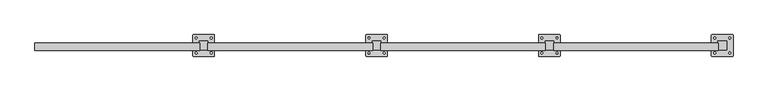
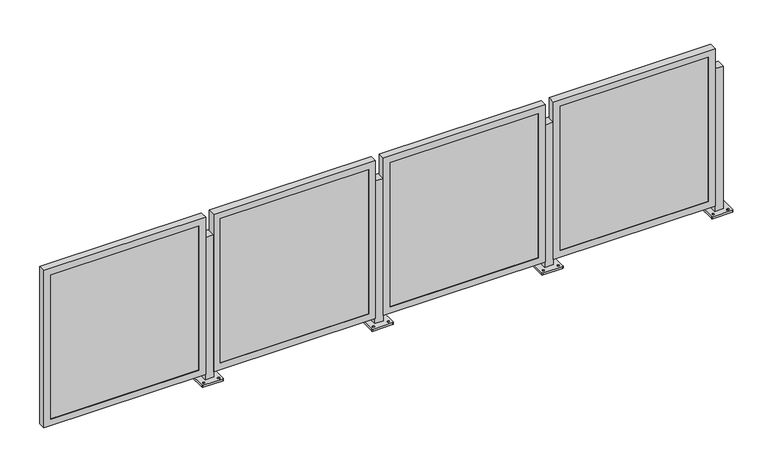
"""IFC4 building model written with IfcOpenShell, lengths in millimetres: railing geometry."""

from ifc_helpers import new_model, si_unit, frame, origin, place, context, project, spatial, polyline, circle_curve, outline, extrude, faceted_brep, source, transform, mapped, element, save
from ifc_brep_helpers import plane_surface, cylinder_surface, revolved_surface, advanced_brep


def railing_e510e1b7(model_context):
    return source(origin(), model_context, "Body", "SolidModel", [
        advanced_brep(
        [(-7228.7876539, 7781.5792637, 914.4), (-7228.7876539, 7730.7792637, 914.4), (-7177.9876539, 7730.7792637, 914.4), (-7177.9876539, 7781.5792637, 914.4), (-7266.887654, 7695.8543047, 0.0), (-7266.887654, 7816.5042227, 0.0), (-7263.7126259, 7819.6792508, 0.0), (-7143.0626819, 7819.6792508, 0.0), (-7139.8876537, 7816.5042227, 0.0), (-7139.8876537, 7695.8543047, 0.0), (-7143.0626819, 7692.6792766, 0.0), (-7263.7126259, 7692.6792766, 0.0), (-7247.8376414, 7706.173009, 0.0), (-7247.8376414, 7717.2855215, 0.0), (-7247.8376523, 7795.0730134, 0.0), (-7247.8376523, 7806.185495, 0.0), (-7158.9376404, 7706.1730106, 0.0), (-7158.9376404, 7717.2855212, 0.0), (-7158.9376514, 7795.073015, 0.0), (-7158.9376514, 7806.1854948, 0.0), (-7228.7876539, 7781.5792637, 12.7), (-7228.7876539, 7730.7792637, 12.7), (-7177.9876539, 7730.7792637, 12.7), (-7177.9876539, 7781.5792637, 12.7), (-7266.887654, 7695.8543047, 12.7), (-7263.7126259, 7692.6792766, 12.7), (-7143.0626819, 7692.6792766, 12.7), (-7139.8876537, 7695.8543047, 12.7), (-7139.8876537, 7816.5042227, 12.7), (-7143.0626819, 7819.6792508, 12.7), (-7263.7126259, 7819.6792508, 12.7), (-7266.887654, 7816.5042227, 12.7), (-7247.8376414, 7706.173009, 12.7), (-7247.8376414, 7717.2855215, 12.7), (-7247.8376523, 7795.0730134, 12.7), (-7247.8376523, 7806.185495, 12.7), (-7158.9376404, 7706.1730106, 12.7), (-7158.9376404, 7717.2855212, 12.7), (-7158.9376514, 7795.073015, 12.7), (-7158.9376514, 7806.1854948, 12.7)],
        [
            (0, 1),
            (1, 2),
            (2, 3),
            (3, 0),
            (4, 5),
            (5, 6, circle_curve(frame((-7263.7126259, 7816.5042227, 0.0), z_axis=(0.0, 0.0, -1.0), x_axis=(0.0, 1.0, 0.0)), 3.1750282)),
            (6, 7),
            (7, 8, circle_curve(frame((-7143.0626819, 7816.5042227, 0.0), z_axis=(0.0, 0.0, -1.0), x_axis=(0.0, 1.0, 0.0)), 3.1750282)),
            (8, 9),
            (9, 10, circle_curve(frame((-7143.0626819, 7695.8543047, 0.0), z_axis=(0.0, 0.0, -1.0), x_axis=(0.0, 1.0, 0.0)), 3.1750282)),
            (10, 11),
            (11, 4, circle_curve(frame((-7263.7126259, 7695.8543047, 0.0), z_axis=(0.0, 0.0, -1.0), x_axis=(0.0, 1.0, 0.0)), 3.1750282)),
            (12, 13, circle_curve(frame((-7247.8376414, 7711.7292653, 0.0), z_axis=(0.0, 0.0, 1.0), x_axis=(0.0, 1.0, 0.0)), 5.5562562)),
            (13, 12, circle_curve(frame((-7247.8376414, 7711.7292653, 0.0), z_axis=(0.0, 0.0, 1.0), x_axis=(0.0, 1.0, 0.0)), 5.5562562)),
            (14, 15, circle_curve(frame((-7247.8376523, 7800.6292542, 0.0), z_axis=(0.0, 0.0, 1.0), x_axis=(0.0, 1.0, 0.0)), 5.5562408)),
            (15, 14, circle_curve(frame((-7247.8376523, 7800.6292542, 0.0), z_axis=(0.0, 0.0, 1.0), x_axis=(0.0, 1.0, 0.0)), 5.5562408)),
            (16, 17, circle_curve(frame((-7158.9376404, 7711.7292659, 0.0), z_axis=(0.0, 0.0, 1.0), x_axis=(0.0, 1.0, 0.0)), 5.5562553)),
            (17, 16, circle_curve(frame((-7158.9376404, 7711.7292659, 0.0), z_axis=(0.0, 0.0, 1.0), x_axis=(0.0, 1.0, 0.0)), 5.5562553)),
            (18, 19, circle_curve(frame((-7158.9376514, 7800.6292549, 0.0), z_axis=(0.0, 0.0, 1.0), x_axis=(0.0, 1.0, 0.0)), 5.5562399)),
            (19, 18, circle_curve(frame((-7158.9376514, 7800.6292549, 0.0), z_axis=(0.0, 0.0, 1.0), x_axis=(0.0, 1.0, 0.0)), 5.5562399)),
            (0, 20),
            (20, 21),
            (21, 1),
            (21, 22),
            (22, 2),
            (22, 23),
            (23, 3),
            (23, 20),
            (24, 25, circle_curve(frame((-7263.7126259, 7695.8543047, 12.7), z_axis=(0.0, 0.0, 1.0), x_axis=(0.0, 1.0, 0.0)), 3.1750282)),
            (25, 26),
            (26, 27, circle_curve(frame((-7143.0626819, 7695.8543047, 12.7), z_axis=(0.0, 0.0, 1.0), x_axis=(0.0, 1.0, 0.0)), 3.1750282)),
            (27, 28),
            (28, 29, circle_curve(frame((-7143.0626819, 7816.5042227, 12.7), z_axis=(0.0, 0.0, 1.0), x_axis=(0.0, 1.0, 0.0)), 3.1750282)),
            (29, 30),
            (30, 31, circle_curve(frame((-7263.7126259, 7816.5042227, 12.7), z_axis=(0.0, 0.0, 1.0), x_axis=(0.0, 1.0, 0.0)), 3.1750282)),
            (31, 24),
            (32, 33, circle_curve(frame((-7247.8376414, 7711.7292653, 12.7), z_axis=(0.0, 0.0, -1.0), x_axis=(0.0, 1.0, 0.0)), 5.5562562)),
            (33, 32, circle_curve(frame((-7247.8376414, 7711.7292653, 12.7), z_axis=(0.0, 0.0, -1.0), x_axis=(0.0, 1.0, 0.0)), 5.5562562)),
            (34, 35, circle_curve(frame((-7247.8376523, 7800.6292542, 12.7), z_axis=(0.0, 0.0, -1.0), x_axis=(0.0, 1.0, 0.0)), 5.5562408)),
            (35, 34, circle_curve(frame((-7247.8376523, 7800.6292542, 12.7), z_axis=(0.0, 0.0, -1.0), x_axis=(0.0, 1.0, 0.0)), 5.5562408)),
            (36, 37, circle_curve(frame((-7158.9376404, 7711.7292659, 12.7), z_axis=(0.0, 0.0, -1.0), x_axis=(0.0, 1.0, 0.0)), 5.5562553)),
            (37, 36, circle_curve(frame((-7158.9376404, 7711.7292659, 12.7), z_axis=(0.0, 0.0, -1.0), x_axis=(0.0, 1.0, 0.0)), 5.5562553)),
            (38, 39, circle_curve(frame((-7158.9376514, 7800.6292549, 12.7), z_axis=(0.0, 0.0, -1.0), x_axis=(0.0, 1.0, 0.0)), 5.5562399)),
            (39, 38, circle_curve(frame((-7158.9376514, 7800.6292549, 12.7), z_axis=(0.0, 0.0, -1.0), x_axis=(0.0, 1.0, 0.0)), 5.5562399)),
            (24, 4),
            (11, 25),
            (10, 26),
            (9, 27),
            (8, 28),
            (7, 29),
            (6, 30),
            (5, 31),
            (32, 12),
            (13, 33),
            (34, 14),
            (15, 35),
            (36, 16),
            (17, 37),
            (38, 18),
            (19, 39),
        ],
        [
            plane_surface(frame((-7228.7876539, 7730.7792637, 914.4), z_axis=(0.0, 0.0, 1.0), x_axis=(0.0, -1.0, 0.0))),
            plane_surface(frame((-7228.7876539, 7730.7792637, 0.0), z_axis=(0.0, 0.0, -1.0), x_axis=(0.0, 1.0, 0.0))),
            plane_surface(frame((-7228.7876539, 7781.5792637, 914.4), z_axis=(-1.0, 0.0, 0.0), x_axis=(0.0, 0.0, -1.0))),
            plane_surface(frame((-7228.7876539, 7730.7792637, 914.4), z_axis=(0.0, -1.0, 0.0), x_axis=(0.0, 0.0, -1.0))),
            plane_surface(frame((-7177.9876539, 7730.7792637, 914.4), z_axis=(1.0, 0.0, 0.0), x_axis=(0.0, 0.0, -1.0))),
            plane_surface(frame((-7177.9876539, 7781.5792637, 914.4), z_axis=(0.0, 1.0, 0.0), x_axis=(0.0, 0.0, -1.0))),
            plane_surface(frame((-7263.7126259, 7699.0293329, 12.7), z_axis=(0.0, 0.0, 1.0), x_axis=(-1.0, 0.0, 0.0))),
            cylinder_surface(frame((-7263.7126259, 7695.8543047, 0.0), z_axis=(0.0, 0.0, 1.0), x_axis=(0.0, 1.0, 0.0)), 3.1750282),
            plane_surface(frame((-7263.7126259, 7692.6792766, 12.7), z_axis=(1.1945386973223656e-12, -1.0, 0.0), x_axis=(0.0, 0.0, -1.0))),
            cylinder_surface(frame((-7143.0626819, 7695.8543047, 0.0), z_axis=(0.0, 0.0, 1.0), x_axis=(0.0, 1.0, 0.0)), 3.1750282),
            plane_surface(frame((-7139.8876537, 7695.8543047, 12.7), z_axis=(1.0, 0.0, 0.0), x_axis=(0.0, 0.0, -1.0))),
            cylinder_surface(frame((-7143.0626819, 7816.5042227, 0.0), z_axis=(0.0, 0.0, 1.0), x_axis=(0.0, 1.0, 0.0)), 3.1750282),
            plane_surface(frame((-7143.0626819, 7819.6792508, 12.7), z_axis=(-1.1946088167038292e-12, 1.0, 0.0), x_axis=(0.0, 0.0, -1.0))),
            cylinder_surface(frame((-7263.7126259, 7816.5042227, 0.0), z_axis=(0.0, 0.0, 1.0), x_axis=(0.0, 1.0, 0.0)), 3.1750282),
            plane_surface(frame((-7266.887654, 7816.5042227, 12.7), z_axis=(-1.0, 0.0, 0.0), x_axis=(0.0, 0.0, -1.0))),
            revolved_surface(polyline([(-7247.8376414, 7717.2855215, 0.0), (-7247.8376414, 7717.2855215, 12.7)]), (-7247.8376414, 7711.7292653, 0.0), (0.0, 0.0, -1.0)),
            revolved_surface(polyline([(-7247.8376523, 7806.185495, 0.0), (-7247.8376523, 7806.185495, 12.7)]), (-7247.8376523, 7800.6292542, 0.0), (0.0, 0.0, -1.0)),
            revolved_surface(polyline([(-7158.9376404, 7717.2855212, 0.0), (-7158.9376404, 7717.2855212, 12.7)]), (-7158.9376404, 7711.7292659, 0.0), (0.0, 0.0, -1.0)),
            revolved_surface(polyline([(-7158.9376514, 7806.1854948, 0.0), (-7158.9376514, 7806.1854948, 12.7)]), (-7158.9376514, 7800.6292549, 0.0), (0.0, 0.0, -1.0)),
        ],
        [
            (0, [[1, 2, 3, 4]]),
            (1, [[5, 6, 7, 8, 9, 10, 11, 12], [13, 14], [15, 16], [17, 18], [19, 20]]),
            (2, [[-1, 21, 22, 23]]),
            (3, [[-2, -23, 24, 25]]),
            (4, [[-3, -25, 26, 27]]),
            (5, [[-4, -27, 28, -21]]),
            (6, [[29, 30, 31, 32, 33, 34, 35, 36], [-22, -28, -26, -24], [37, 38], [39, 40], [41, 42], [43, 44]]),
            (7, [[-29, 45, -12, 46]]),
            (8, [[-30, -46, -11, 47]]),
            (9, [[-31, -47, -10, 48]]),
            (10, [[-32, -48, -9, 49]]),
            (11, [[-33, -49, -8, 50]]),
            (12, [[-34, -50, -7, 51]]),
            (13, [[-35, -51, -6, 52]]),
            (14, [[-36, -52, -5, -45]]),
            (15, [[-37, 53, -14, 54]]),
            (15, [[-38, -54, -13, -53]]),
            (16, [[-39, 55, -16, 56]]),
            (16, [[-40, -56, -15, -55]]),
            (17, [[-41, 57, -18, 58]]),
            (17, [[-42, -58, -17, -57]]),
            (18, [[-43, 59, -20, 60]]),
            (18, [[-44, -60, -19, -59]]),
        ],
    ),
        faceted_brep([(-8195.1921073, 7728.0360637, 47.625), (-7226.8171073, 7728.0360637, 47.625), (-7226.8171073, 7728.0360637, 1044.575), (-8195.1921073, 7728.0360637, 1044.575), (-8153.9171073, 7728.0360637, 1003.3), (-7268.0921073, 7728.0360637, 1003.3), (-7268.0921073, 7728.0360637, 88.9), (-8153.9171073, 7728.0360637, 88.9), (-8153.9171073, 7730.7792637, 1003.3), (-8153.9171073, 7730.7792637, 88.9), (-8195.1921073, 7771.9093602, 1044.575), (-8195.1921073, 7771.9093602, 47.625), (-8192.0171073, 7771.9093602, 1041.4), (-8192.0171073, 7730.7792637, 1041.4), (-8192.0171073, 7730.7792637, 50.8), (-8192.0171073, 7771.9093602, 50.8), (-7268.0921073, 7730.7792637, 88.9), (-7226.8171073, 7771.9093602, 47.625), (-7229.9921073, 7730.7792637, 50.8), (-7229.9921073, 7771.9093602, 50.8), (-7268.0921073, 7730.7792637, 1003.3), (-7226.8171073, 7771.9093602, 1044.575), (-7229.9921073, 7730.7792637, 1041.4), (-7229.9921073, 7771.9093602, 1041.4)], [[[0, 1, 2, 3], [4, 5, 6, 7]], [[8, 4, 7, 9]], [[3, 10, 11, 0]], [[12, 13, 14, 15]], [[9, 7, 6, 16]], [[0, 11, 17, 1]], [[15, 14, 18, 19]], [[16, 6, 5, 20]], [[1, 17, 21, 2]], [[19, 18, 22, 23]], [[20, 5, 4, 8]], [[10, 21, 17, 11], [15, 19, 23, 12]], [[2, 21, 10, 3]], [[13, 22, 18, 14], [9, 16, 20, 8]], [[23, 22, 13, 12]]]),
        extrude(outline(polyline([(-8192.0171073, 7740.3042637), (-7229.9921073, 7740.3042637), (-7229.9921073, 7730.7792637), (-8192.0171073, 7730.7792637), (-8192.0171073, 7740.3042637)])), frame((0.0, 0.0, 50.8), z_axis=(0.0, 0.0, 1.0), x_axis=(1.0, 0.0, 0.0)), (0.0, 0.0, 1.0), 990.6),
        advanced_brep(
        [(-8244.7876539, 7781.5792637, 914.4), (-8244.7876539, 7730.7792637, 914.4), (-8193.9876539, 7730.7792637, 914.4), (-8193.9876539, 7781.5792637, 914.4), (-8282.887654, 7695.8543047, 0.0), (-8282.887654, 7816.5042227, 0.0), (-8279.7126259, 7819.6792508, 0.0), (-8159.0626819, 7819.6792508, 0.0), (-8155.8876537, 7816.5042227, 0.0), (-8155.8876537, 7695.8543047, 0.0), (-8159.0626819, 7692.6792766, 0.0), (-8279.7126259, 7692.6792766, 0.0), (-8263.8376414, 7706.173009, 0.0), (-8263.8376414, 7717.2855215, 0.0), (-8263.8376523, 7795.0730134, 0.0), (-8263.8376523, 7806.185495, 0.0), (-8174.9376404, 7706.1730106, 0.0), (-8174.9376404, 7717.2855212, 0.0), (-8174.9376514, 7795.073015, 0.0), (-8174.9376514, 7806.1854948, 0.0), (-8244.7876539, 7781.5792637, 12.7), (-8244.7876539, 7730.7792637, 12.7), (-8193.9876539, 7730.7792637, 12.7), (-8193.9876539, 7781.5792637, 12.7), (-8282.887654, 7695.8543047, 12.7), (-8279.7126259, 7692.6792766, 12.7), (-8159.0626819, 7692.6792766, 12.7), (-8155.8876537, 7695.8543047, 12.7), (-8155.8876537, 7816.5042227, 12.7), (-8159.0626819, 7819.6792508, 12.7), (-8279.7126259, 7819.6792508, 12.7), (-8282.887654, 7816.5042227, 12.7), (-8263.8376414, 7706.173009, 12.7), (-8263.8376414, 7717.2855215, 12.7), (-8263.8376523, 7795.0730134, 12.7), (-8263.8376523, 7806.185495, 12.7), (-8174.9376404, 7706.1730106, 12.7), (-8174.9376404, 7717.2855212, 12.7), (-8174.9376514, 7795.073015, 12.7), (-8174.9376514, 7806.1854948, 12.7)],
        [
            (0, 1),
            (1, 2),
            (2, 3),
            (3, 0),
            (4, 5),
            (5, 6, circle_curve(frame((-8279.7126259, 7816.5042227, 0.0), z_axis=(0.0, 0.0, -1.0), x_axis=(0.0, 1.0, 0.0)), 3.1750282)),
            (6, 7),
            (7, 8, circle_curve(frame((-8159.0626819, 7816.5042227, 0.0), z_axis=(0.0, 0.0, -1.0), x_axis=(0.0, 1.0, 0.0)), 3.1750282)),
            (8, 9),
            (9, 10, circle_curve(frame((-8159.0626819, 7695.8543047, 0.0), z_axis=(0.0, 0.0, -1.0), x_axis=(0.0, 1.0, 0.0)), 3.1750282)),
            (10, 11),
            (11, 4, circle_curve(frame((-8279.7126259, 7695.8543047, 0.0), z_axis=(0.0, 0.0, -1.0), x_axis=(0.0, 1.0, 0.0)), 3.1750282)),
            (12, 13, circle_curve(frame((-8263.8376414, 7711.7292653, 0.0), z_axis=(0.0, 0.0, 1.0), x_axis=(0.0, 1.0, 0.0)), 5.5562562)),
            (13, 12, circle_curve(frame((-8263.8376414, 7711.7292653, 0.0), z_axis=(0.0, 0.0, 1.0), x_axis=(0.0, 1.0, 0.0)), 5.5562562)),
            (14, 15, circle_curve(frame((-8263.8376523, 7800.6292542, 0.0), z_axis=(0.0, 0.0, 1.0), x_axis=(0.0, 1.0, 0.0)), 5.5562408)),
            (15, 14, circle_curve(frame((-8263.8376523, 7800.6292542, 0.0), z_axis=(0.0, 0.0, 1.0), x_axis=(0.0, 1.0, 0.0)), 5.5562408)),
            (16, 17, circle_curve(frame((-8174.9376404, 7711.7292659, 0.0), z_axis=(0.0, 0.0, 1.0), x_axis=(0.0, 1.0, 0.0)), 5.5562553)),
            (17, 16, circle_curve(frame((-8174.9376404, 7711.7292659, 0.0), z_axis=(0.0, 0.0, 1.0), x_axis=(0.0, 1.0, 0.0)), 5.5562553)),
            (18, 19, circle_curve(frame((-8174.9376514, 7800.6292549, 0.0), z_axis=(0.0, 0.0, 1.0), x_axis=(0.0, 1.0, 0.0)), 5.5562399)),
            (19, 18, circle_curve(frame((-8174.9376514, 7800.6292549, 0.0), z_axis=(0.0, 0.0, 1.0), x_axis=(0.0, 1.0, 0.0)), 5.5562399)),
            (0, 20),
            (20, 21),
            (21, 1),
            (21, 22),
            (22, 2),
            (22, 23),
            (23, 3),
            (23, 20),
            (24, 25, circle_curve(frame((-8279.7126259, 7695.8543047, 12.7), z_axis=(0.0, 0.0, 1.0), x_axis=(0.0, 1.0, 0.0)), 3.1750282)),
            (25, 26),
            (26, 27, circle_curve(frame((-8159.0626819, 7695.8543047, 12.7), z_axis=(0.0, 0.0, 1.0), x_axis=(0.0, 1.0, 0.0)), 3.1750282)),
            (27, 28),
            (28, 29, circle_curve(frame((-8159.0626819, 7816.5042227, 12.7), z_axis=(0.0, 0.0, 1.0), x_axis=(0.0, 1.0, 0.0)), 3.1750282)),
            (29, 30),
            (30, 31, circle_curve(frame((-8279.7126259, 7816.5042227, 12.7), z_axis=(0.0, 0.0, 1.0), x_axis=(0.0, 1.0, 0.0)), 3.1750282)),
            (31, 24),
            (32, 33, circle_curve(frame((-8263.8376414, 7711.7292653, 12.7), z_axis=(0.0, 0.0, -1.0), x_axis=(0.0, 1.0, 0.0)), 5.5562562)),
            (33, 32, circle_curve(frame((-8263.8376414, 7711.7292653, 12.7), z_axis=(0.0, 0.0, -1.0), x_axis=(0.0, 1.0, 0.0)), 5.5562562)),
            (34, 35, circle_curve(frame((-8263.8376523, 7800.6292542, 12.7), z_axis=(0.0, 0.0, -1.0), x_axis=(0.0, 1.0, 0.0)), 5.5562408)),
            (35, 34, circle_curve(frame((-8263.8376523, 7800.6292542, 12.7), z_axis=(0.0, 0.0, -1.0), x_axis=(0.0, 1.0, 0.0)), 5.5562408)),
            (36, 37, circle_curve(frame((-8174.9376404, 7711.7292659, 12.7), z_axis=(0.0, 0.0, -1.0), x_axis=(0.0, 1.0, 0.0)), 5.5562553)),
            (37, 36, circle_curve(frame((-8174.9376404, 7711.7292659, 12.7), z_axis=(0.0, 0.0, -1.0), x_axis=(0.0, 1.0, 0.0)), 5.5562553)),
            (38, 39, circle_curve(frame((-8174.9376514, 7800.6292549, 12.7), z_axis=(0.0, 0.0, -1.0), x_axis=(0.0, 1.0, 0.0)), 5.5562399)),
            (39, 38, circle_curve(frame((-8174.9376514, 7800.6292549, 12.7), z_axis=(0.0, 0.0, -1.0), x_axis=(0.0, 1.0, 0.0)), 5.5562399)),
            (24, 4),
            (11, 25),
            (10, 26),
            (9, 27),
            (8, 28),
            (7, 29),
            (6, 30),
            (5, 31),
            (32, 12),
            (13, 33),
            (34, 14),
            (15, 35),
            (36, 16),
            (17, 37),
            (38, 18),
            (19, 39),
        ],
        [
            plane_surface(frame((-8244.7876539, 7730.7792637, 914.4), z_axis=(0.0, 0.0, 1.0), x_axis=(0.0, -1.0, 0.0))),
            plane_surface(frame((-8244.7876539, 7730.7792637, 0.0), z_axis=(0.0, 0.0, -1.0), x_axis=(0.0, 1.0, 0.0))),
            plane_surface(frame((-8244.7876539, 7781.5792637, 914.4), z_axis=(-1.0, 0.0, 0.0), x_axis=(0.0, 0.0, -1.0))),
            plane_surface(frame((-8244.7876539, 7730.7792637, 914.4), z_axis=(0.0, -1.0, 0.0), x_axis=(0.0, 0.0, -1.0))),
            plane_surface(frame((-8193.9876539, 7730.7792637, 914.4), z_axis=(1.0, 0.0, 0.0), x_axis=(0.0, 0.0, -1.0))),
            plane_surface(frame((-8193.9876539, 7781.5792637, 914.4), z_axis=(0.0, 1.0, 0.0), x_axis=(0.0, 0.0, -1.0))),
            plane_surface(frame((-8279.7126259, 7699.0293329, 12.7), z_axis=(0.0, 0.0, 1.0), x_axis=(-1.0, 0.0, 0.0))),
            cylinder_surface(frame((-8279.7126259, 7695.8543047, 0.0), z_axis=(0.0, 0.0, 1.0), x_axis=(0.0, 1.0, 0.0)), 3.1750282),
            plane_surface(frame((-8279.7126259, 7692.6792766, 12.7), z_axis=(1.1945386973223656e-12, -1.0, 0.0), x_axis=(0.0, 0.0, -1.0))),
            cylinder_surface(frame((-8159.0626819, 7695.8543047, 0.0), z_axis=(0.0, 0.0, 1.0), x_axis=(0.0, 1.0, 0.0)), 3.1750282),
            plane_surface(frame((-8155.8876537, 7695.8543047, 12.7), z_axis=(1.0, 0.0, 0.0), x_axis=(0.0, 0.0, -1.0))),
            cylinder_surface(frame((-8159.0626819, 7816.5042227, 0.0), z_axis=(0.0, 0.0, 1.0), x_axis=(0.0, 1.0, 0.0)), 3.1750282),
            plane_surface(frame((-8159.0626819, 7819.6792508, 12.7), z_axis=(-1.1946088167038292e-12, 1.0, 0.0), x_axis=(0.0, 0.0, -1.0))),
            cylinder_surface(frame((-8279.7126259, 7816.5042227, 0.0), z_axis=(0.0, 0.0, 1.0), x_axis=(0.0, 1.0, 0.0)), 3.1750282),
            plane_surface(frame((-8282.887654, 7816.5042227, 12.7), z_axis=(-1.0, 0.0, 0.0), x_axis=(0.0, 0.0, -1.0))),
            revolved_surface(polyline([(-8263.8376414, 7717.2855215, 0.0), (-8263.8376414, 7717.2855215, 12.7)]), (-8263.8376414, 7711.7292653, 0.0), (0.0, 0.0, -1.0)),
            revolved_surface(polyline([(-8263.8376523, 7806.185495, 0.0), (-8263.8376523, 7806.185495, 12.7)]), (-8263.8376523, 7800.6292542, 0.0), (0.0, 0.0, -1.0)),
            revolved_surface(polyline([(-8174.9376404, 7717.2855212, 0.0), (-8174.9376404, 7717.2855212, 12.7)]), (-8174.9376404, 7711.7292659, 0.0), (0.0, 0.0, -1.0)),
            revolved_surface(polyline([(-8174.9376514, 7806.1854948, 0.0), (-8174.9376514, 7806.1854948, 12.7)]), (-8174.9376514, 7800.6292549, 0.0), (0.0, 0.0, -1.0)),
        ],
        [
            (0, [[1, 2, 3, 4]]),
            (1, [[5, 6, 7, 8, 9, 10, 11, 12], [13, 14], [15, 16], [17, 18], [19, 20]]),
            (2, [[-1, 21, 22, 23]]),
            (3, [[-2, -23, 24, 25]]),
            (4, [[-3, -25, 26, 27]]),
            (5, [[-4, -27, 28, -21]]),
            (6, [[29, 30, 31, 32, 33, 34, 35, 36], [-22, -28, -26, -24], [37, 38], [39, 40], [41, 42], [43, 44]]),
            (7, [[-29, 45, -12, 46]]),
            (8, [[-30, -46, -11, 47]]),
            (9, [[-31, -47, -10, 48]]),
            (10, [[-32, -48, -9, 49]]),
            (11, [[-33, -49, -8, 50]]),
            (12, [[-34, -50, -7, 51]]),
            (13, [[-35, -51, -6, 52]]),
            (14, [[-36, -52, -5, -45]]),
            (15, [[-37, 53, -14, 54]]),
            (15, [[-38, -54, -13, -53]]),
            (16, [[-39, 55, -16, 56]]),
            (16, [[-40, -56, -15, -55]]),
            (17, [[-41, 57, -18, 58]]),
            (17, [[-42, -58, -17, -57]]),
            (18, [[-43, 59, -20, 60]]),
            (18, [[-44, -60, -19, -59]]),
        ],
    ),
        faceted_brep([(-9211.1921073, 7728.0360637, 47.625), (-8242.8171073, 7728.0360637, 47.625), (-8242.8171073, 7728.0360637, 1044.575), (-9211.1921073, 7728.0360637, 1044.575), (-9169.9171073, 7728.0360637, 1003.3), (-8284.0921073, 7728.0360637, 1003.3), (-8284.0921073, 7728.0360637, 88.9), (-9169.9171073, 7728.0360637, 88.9), (-9169.9171073, 7730.7792637, 1003.3), (-9169.9171073, 7730.7792637, 88.9), (-9211.1921073, 7771.9093602, 1044.575), (-9211.1921073, 7771.9093602, 47.625), (-9208.0171073, 7771.9093602, 1041.4), (-9208.0171073, 7730.7792637, 1041.4), (-9208.0171073, 7730.7792637, 50.8), (-9208.0171073, 7771.9093602, 50.8), (-8284.0921073, 7730.7792637, 88.9), (-8242.8171073, 7771.9093602, 47.625), (-8245.9921073, 7730.7792637, 50.8), (-8245.9921073, 7771.9093602, 50.8), (-8284.0921073, 7730.7792637, 1003.3), (-8242.8171073, 7771.9093602, 1044.575), (-8245.9921073, 7730.7792637, 1041.4), (-8245.9921073, 7771.9093602, 1041.4)], [[[0, 1, 2, 3], [4, 5, 6, 7]], [[8, 4, 7, 9]], [[3, 10, 11, 0]], [[12, 13, 14, 15]], [[9, 7, 6, 16]], [[0, 11, 17, 1]], [[15, 14, 18, 19]], [[16, 6, 5, 20]], [[1, 17, 21, 2]], [[19, 18, 22, 23]], [[20, 5, 4, 8]], [[10, 21, 17, 11], [15, 19, 23, 12]], [[2, 21, 10, 3]], [[13, 22, 18, 14], [9, 16, 20, 8]], [[23, 22, 13, 12]]]),
        extrude(outline(polyline([(-9208.0171073, 7740.3042637), (-8245.9921073, 7740.3042637), (-8245.9921073, 7730.7792637), (-9208.0171073, 7730.7792637), (-9208.0171073, 7740.3042637)])), frame((0.0, 0.0, 50.8), z_axis=(0.0, 0.0, 1.0), x_axis=(1.0, 0.0, 0.0)), (0.0, 0.0, 1.0), 990.6),
        advanced_brep(
        [(-9260.7876539, 7781.5792637, 914.4), (-9260.7876539, 7730.7792637, 914.4), (-9209.9876539, 7730.7792637, 914.4), (-9209.9876539, 7781.5792637, 914.4), (-9298.887654, 7695.8543047, 0.0), (-9298.887654, 7816.5042227, 0.0), (-9295.7126259, 7819.6792508, 0.0), (-9175.0626819, 7819.6792508, 0.0), (-9171.8876537, 7816.5042227, 0.0), (-9171.8876537, 7695.8543047, 0.0), (-9175.0626819, 7692.6792766, 0.0), (-9295.7126259, 7692.6792766, 0.0), (-9279.8376414, 7706.173009, 0.0), (-9279.8376414, 7717.2855215, 0.0), (-9279.8376523, 7795.0730134, 0.0), (-9279.8376523, 7806.185495, 0.0), (-9190.9376404, 7706.1730106, 0.0), (-9190.9376404, 7717.2855212, 0.0), (-9190.9376514, 7795.073015, 0.0), (-9190.9376514, 7806.1854948, 0.0), (-9260.7876539, 7781.5792637, 12.7), (-9260.7876539, 7730.7792637, 12.7), (-9209.9876539, 7730.7792637, 12.7), (-9209.9876539, 7781.5792637, 12.7), (-9298.887654, 7695.8543047, 12.7), (-9295.7126259, 7692.6792766, 12.7), (-9175.0626819, 7692.6792766, 12.7), (-9171.8876537, 7695.8543047, 12.7), (-9171.8876537, 7816.5042227, 12.7), (-9175.0626819, 7819.6792508, 12.7), (-9295.7126259, 7819.6792508, 12.7), (-9298.887654, 7816.5042227, 12.7), (-9279.8376414, 7706.173009, 12.7), (-9279.8376414, 7717.2855215, 12.7), (-9279.8376523, 7795.0730134, 12.7), (-9279.8376523, 7806.185495, 12.7), (-9190.9376404, 7706.1730106, 12.7), (-9190.9376404, 7717.2855212, 12.7), (-9190.9376514, 7795.073015, 12.7), (-9190.9376514, 7806.1854948, 12.7)],
        [
            (0, 1),
            (1, 2),
            (2, 3),
            (3, 0),
            (4, 5),
            (5, 6, circle_curve(frame((-9295.7126259, 7816.5042227, 0.0), z_axis=(0.0, 0.0, -1.0), x_axis=(0.0, 1.0, 0.0)), 3.1750282)),
            (6, 7),
            (7, 8, circle_curve(frame((-9175.0626819, 7816.5042227, 0.0), z_axis=(0.0, 0.0, -1.0), x_axis=(0.0, 1.0, 0.0)), 3.1750282)),
            (8, 9),
            (9, 10, circle_curve(frame((-9175.0626819, 7695.8543047, 0.0), z_axis=(0.0, 0.0, -1.0), x_axis=(0.0, 1.0, 0.0)), 3.1750282)),
            (10, 11),
            (11, 4, circle_curve(frame((-9295.7126259, 7695.8543047, 0.0), z_axis=(0.0, 0.0, -1.0), x_axis=(0.0, 1.0, 0.0)), 3.1750282)),
            (12, 13, circle_curve(frame((-9279.8376414, 7711.7292653, 0.0), z_axis=(0.0, 0.0, 1.0), x_axis=(0.0, 1.0, 0.0)), 5.5562562)),
            (13, 12, circle_curve(frame((-9279.8376414, 7711.7292653, 0.0), z_axis=(0.0, 0.0, 1.0), x_axis=(0.0, 1.0, 0.0)), 5.5562562)),
            (14, 15, circle_curve(frame((-9279.8376523, 7800.6292542, 0.0), z_axis=(0.0, 0.0, 1.0), x_axis=(0.0, 1.0, 0.0)), 5.5562408)),
            (15, 14, circle_curve(frame((-9279.8376523, 7800.6292542, 0.0), z_axis=(0.0, 0.0, 1.0), x_axis=(0.0, 1.0, 0.0)), 5.5562408)),
            (16, 17, circle_curve(frame((-9190.9376404, 7711.7292659, 0.0), z_axis=(0.0, 0.0, 1.0), x_axis=(0.0, 1.0, 0.0)), 5.5562553)),
            (17, 16, circle_curve(frame((-9190.9376404, 7711.7292659, 0.0), z_axis=(0.0, 0.0, 1.0), x_axis=(0.0, 1.0, 0.0)), 5.5562553)),
            (18, 19, circle_curve(frame((-9190.9376514, 7800.6292549, 0.0), z_axis=(0.0, 0.0, 1.0), x_axis=(0.0, 1.0, 0.0)), 5.5562399)),
            (19, 18, circle_curve(frame((-9190.9376514, 7800.6292549, 0.0), z_axis=(0.0, 0.0, 1.0), x_axis=(0.0, 1.0, 0.0)), 5.5562399)),
            (0, 20),
            (20, 21),
            (21, 1),
            (21, 22),
            (22, 2),
            (22, 23),
            (23, 3),
            (23, 20),
            (24, 25, circle_curve(frame((-9295.7126259, 7695.8543047, 12.7), z_axis=(0.0, 0.0, 1.0), x_axis=(0.0, 1.0, 0.0)), 3.1750282)),
            (25, 26),
            (26, 27, circle_curve(frame((-9175.0626819, 7695.8543047, 12.7), z_axis=(0.0, 0.0, 1.0), x_axis=(0.0, 1.0, 0.0)), 3.1750282)),
            (27, 28),
            (28, 29, circle_curve(frame((-9175.0626819, 7816.5042227, 12.7), z_axis=(0.0, 0.0, 1.0), x_axis=(0.0, 1.0, 0.0)), 3.1750282)),
            (29, 30),
            (30, 31, circle_curve(frame((-9295.7126259, 7816.5042227, 12.7), z_axis=(0.0, 0.0, 1.0), x_axis=(0.0, 1.0, 0.0)), 3.1750282)),
            (31, 24),
            (32, 33, circle_curve(frame((-9279.8376414, 7711.7292653, 12.7), z_axis=(0.0, 0.0, -1.0), x_axis=(0.0, 1.0, 0.0)), 5.5562562)),
            (33, 32, circle_curve(frame((-9279.8376414, 7711.7292653, 12.7), z_axis=(0.0, 0.0, -1.0), x_axis=(0.0, 1.0, 0.0)), 5.5562562)),
            (34, 35, circle_curve(frame((-9279.8376523, 7800.6292542, 12.7), z_axis=(0.0, 0.0, -1.0), x_axis=(0.0, 1.0, 0.0)), 5.5562408)),
            (35, 34, circle_curve(frame((-9279.8376523, 7800.6292542, 12.7), z_axis=(0.0, 0.0, -1.0), x_axis=(0.0, 1.0, 0.0)), 5.5562408)),
            (36, 37, circle_curve(frame((-9190.9376404, 7711.7292659, 12.7), z_axis=(0.0, 0.0, -1.0), x_axis=(0.0, 1.0, 0.0)), 5.5562553)),
            (37, 36, circle_curve(frame((-9190.9376404, 7711.7292659, 12.7), z_axis=(0.0, 0.0, -1.0), x_axis=(0.0, 1.0, 0.0)), 5.5562553)),
            (38, 39, circle_curve(frame((-9190.9376514, 7800.6292549, 12.7), z_axis=(0.0, 0.0, -1.0), x_axis=(0.0, 1.0, 0.0)), 5.5562399)),
            (39, 38, circle_curve(frame((-9190.9376514, 7800.6292549, 12.7), z_axis=(0.0, 0.0, -1.0), x_axis=(0.0, 1.0, 0.0)), 5.5562399)),
            (24, 4),
            (11, 25),
            (10, 26),
            (9, 27),
            (8, 28),
            (7, 29),
            (6, 30),
            (5, 31),
            (32, 12),
            (13, 33),
            (34, 14),
            (15, 35),
            (36, 16),
            (17, 37),
            (38, 18),
            (19, 39),
        ],
        [
            plane_surface(frame((-9260.7876539, 7730.7792637, 914.4), z_axis=(0.0, 0.0, 1.0), x_axis=(0.0, -1.0, 0.0))),
            plane_surface(frame((-9260.7876539, 7730.7792637, 0.0), z_axis=(0.0, 0.0, -1.0), x_axis=(0.0, 1.0, 0.0))),
            plane_surface(frame((-9260.7876539, 7781.5792637, 914.4), z_axis=(-1.0, 0.0, 0.0), x_axis=(0.0, 0.0, -1.0))),
            plane_surface(frame((-9260.7876539, 7730.7792637, 914.4), z_axis=(0.0, -1.0, 0.0), x_axis=(0.0, 0.0, -1.0))),
            plane_surface(frame((-9209.9876539, 7730.7792637, 914.4), z_axis=(1.0, 0.0, 0.0), x_axis=(0.0, 0.0, -1.0))),
            plane_surface(frame((-9209.9876539, 7781.5792637, 914.4), z_axis=(0.0, 1.0, 0.0), x_axis=(0.0, 0.0, -1.0))),
            plane_surface(frame((-9295.7126259, 7699.0293329, 12.7), z_axis=(0.0, 0.0, 1.0), x_axis=(-1.0, 0.0, 0.0))),
            cylinder_surface(frame((-9295.7126259, 7695.8543047, 0.0), z_axis=(0.0, 0.0, 1.0), x_axis=(0.0, 1.0, 0.0)), 3.1750282),
            plane_surface(frame((-9295.7126259, 7692.6792766, 12.7), z_axis=(1.1945386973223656e-12, -1.0, 0.0), x_axis=(0.0, 0.0, -1.0))),
            cylinder_surface(frame((-9175.0626819, 7695.8543047, 0.0), z_axis=(0.0, 0.0, 1.0), x_axis=(0.0, 1.0, 0.0)), 3.1750282),
            plane_surface(frame((-9171.8876537, 7695.8543047, 12.7), z_axis=(1.0, 0.0, 0.0), x_axis=(0.0, 0.0, -1.0))),
            cylinder_surface(frame((-9175.0626819, 7816.5042227, 0.0), z_axis=(0.0, 0.0, 1.0), x_axis=(0.0, 1.0, 0.0)), 3.1750282),
            plane_surface(frame((-9175.0626819, 7819.6792508, 12.7), z_axis=(-1.1946088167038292e-12, 1.0, 0.0), x_axis=(0.0, 0.0, -1.0))),
            cylinder_surface(frame((-9295.7126259, 7816.5042227, 0.0), z_axis=(0.0, 0.0, 1.0), x_axis=(0.0, 1.0, 0.0)), 3.1750282),
            plane_surface(frame((-9298.887654, 7816.5042227, 12.7), z_axis=(-1.0, 0.0, 0.0), x_axis=(0.0, 0.0, -1.0))),
            revolved_surface(polyline([(-9279.8376414, 7717.2855215, 0.0), (-9279.8376414, 7717.2855215, 12.7)]), (-9279.8376414, 7711.7292653, 0.0), (0.0, 0.0, -1.0)),
            revolved_surface(polyline([(-9279.8376523, 7806.185495, 0.0), (-9279.8376523, 7806.185495, 12.7)]), (-9279.8376523, 7800.6292542, 0.0), (0.0, 0.0, -1.0)),
            revolved_surface(polyline([(-9190.9376404, 7717.2855212, 0.0), (-9190.9376404, 7717.2855212, 12.7)]), (-9190.9376404, 7711.7292659, 0.0), (0.0, 0.0, -1.0)),
            revolved_surface(polyline([(-9190.9376514, 7806.1854948, 0.0), (-9190.9376514, 7806.1854948, 12.7)]), (-9190.9376514, 7800.6292549, 0.0), (0.0, 0.0, -1.0)),
        ],
        [
            (0, [[1, 2, 3, 4]]),
            (1, [[5, 6, 7, 8, 9, 10, 11, 12], [13, 14], [15, 16], [17, 18], [19, 20]]),
            (2, [[-1, 21, 22, 23]]),
            (3, [[-2, -23, 24, 25]]),
            (4, [[-3, -25, 26, 27]]),
            (5, [[-4, -27, 28, -21]]),
            (6, [[29, 30, 31, 32, 33, 34, 35, 36], [-22, -28, -26, -24], [37, 38], [39, 40], [41, 42], [43, 44]]),
            (7, [[-29, 45, -12, 46]]),
            (8, [[-30, -46, -11, 47]]),
            (9, [[-31, -47, -10, 48]]),
            (10, [[-32, -48, -9, 49]]),
            (11, [[-33, -49, -8, 50]]),
            (12, [[-34, -50, -7, 51]]),
            (13, [[-35, -51, -6, 52]]),
            (14, [[-36, -52, -5, -45]]),
            (15, [[-37, 53, -14, 54]]),
            (15, [[-38, -54, -13, -53]]),
            (16, [[-39, 55, -16, 56]]),
            (16, [[-40, -56, -15, -55]]),
            (17, [[-41, 57, -18, 58]]),
            (17, [[-42, -58, -17, -57]]),
            (18, [[-43, 59, -20, 60]]),
            (18, [[-44, -60, -19, -59]]),
        ],
    ),
        faceted_brep([(-10227.1921073, 7728.0360637, 47.625), (-9258.8171073, 7728.0360637, 47.625), (-9258.8171073, 7728.0360637, 1044.575), (-10227.1921073, 7728.0360637, 1044.575), (-10185.9171073, 7728.0360637, 1003.3), (-9300.0921073, 7728.0360637, 1003.3), (-9300.0921073, 7728.0360637, 88.9), (-10185.9171073, 7728.0360637, 88.9), (-10185.9171073, 7730.7792637, 1003.3), (-10185.9171073, 7730.7792637, 88.9), (-10227.1921073, 7771.9093602, 1044.575), (-10227.1921073, 7771.9093602, 47.625), (-10224.0171073, 7771.9093602, 1041.4), (-10224.0171073, 7730.7792637, 1041.4), (-10224.0171073, 7730.7792637, 50.8), (-10224.0171073, 7771.9093602, 50.8), (-9300.0921073, 7730.7792637, 88.9), (-9258.8171073, 7771.9093602, 47.625), (-9261.9921073, 7730.7792637, 50.8), (-9261.9921073, 7771.9093602, 50.8), (-9300.0921073, 7730.7792637, 1003.3), (-9258.8171073, 7771.9093602, 1044.575), (-9261.9921073, 7730.7792637, 1041.4), (-9261.9921073, 7771.9093602, 1041.4)], [[[0, 1, 2, 3], [4, 5, 6, 7]], [[8, 4, 7, 9]], [[3, 10, 11, 0]], [[12, 13, 14, 15]], [[9, 7, 6, 16]], [[0, 11, 17, 1]], [[15, 14, 18, 19]], [[16, 6, 5, 20]], [[1, 17, 21, 2]], [[19, 18, 22, 23]], [[20, 5, 4, 8]], [[10, 21, 17, 11], [15, 19, 23, 12]], [[2, 21, 10, 3]], [[13, 22, 18, 14], [9, 16, 20, 8]], [[23, 22, 13, 12]]]),
        extrude(outline(polyline([(-10224.0171073, 7740.3042637), (-9261.9921073, 7740.3042637), (-9261.9921073, 7730.7792637), (-10224.0171073, 7730.7792637), (-10224.0171073, 7740.3042637)])), frame((0.0, 0.0, 50.8), z_axis=(0.0, 0.0, 1.0), x_axis=(1.0, 0.0, 0.0)), (0.0, 0.0, 1.0), 990.6),
        advanced_brep(
        [(-10276.7876539, 7781.5792637, 914.4), (-10276.7876539, 7730.7792637, 914.4), (-10225.9876539, 7730.7792637, 914.4), (-10225.9876539, 7781.5792637, 914.4), (-10314.887654, 7695.8543047, 0.0), (-10314.887654, 7816.5042227, 0.0), (-10311.7126259, 7819.6792508, 0.0), (-10191.0626819, 7819.6792508, 0.0), (-10187.8876537, 7816.5042227, 0.0), (-10187.8876537, 7695.8543047, 0.0), (-10191.0626819, 7692.6792766, 0.0), (-10311.7126259, 7692.6792766, 0.0), (-10295.8376414, 7706.173009, 0.0), (-10295.8376414, 7717.2855215, 0.0), (-10295.8376523, 7795.0730134, 0.0), (-10295.8376523, 7806.185495, 0.0), (-10206.9376404, 7706.1730106, 0.0), (-10206.9376404, 7717.2855212, 0.0), (-10206.9376514, 7795.073015, 0.0), (-10206.9376514, 7806.1854948, 0.0), (-10276.7876539, 7781.5792637, 12.7), (-10276.7876539, 7730.7792637, 12.7), (-10225.9876539, 7730.7792637, 12.7), (-10225.9876539, 7781.5792637, 12.7), (-10314.887654, 7695.8543047, 12.7), (-10311.7126259, 7692.6792766, 12.7), (-10191.0626819, 7692.6792766, 12.7), (-10187.8876537, 7695.8543047, 12.7), (-10187.8876537, 7816.5042227, 12.7), (-10191.0626819, 7819.6792508, 12.7), (-10311.7126259, 7819.6792508, 12.7), (-10314.887654, 7816.5042227, 12.7), (-10295.8376414, 7706.173009, 12.7), (-10295.8376414, 7717.2855215, 12.7), (-10295.8376523, 7795.0730134, 12.7), (-10295.8376523, 7806.185495, 12.7), (-10206.9376404, 7706.1730106, 12.7), (-10206.9376404, 7717.2855212, 12.7), (-10206.9376514, 7795.073015, 12.7), (-10206.9376514, 7806.1854948, 12.7)],
        [
            (0, 1),
            (1, 2),
            (2, 3),
            (3, 0),
            (4, 5),
            (5, 6, circle_curve(frame((-10311.7126259, 7816.5042227, 0.0), z_axis=(0.0, 0.0, -1.0), x_axis=(0.0, 1.0, 0.0)), 3.1750282)),
            (6, 7),
            (7, 8, circle_curve(frame((-10191.0626819, 7816.5042227, 0.0), z_axis=(0.0, 0.0, -1.0), x_axis=(0.0, 1.0, 0.0)), 3.1750282)),
            (8, 9),
            (9, 10, circle_curve(frame((-10191.0626819, 7695.8543047, 0.0), z_axis=(0.0, 0.0, -1.0), x_axis=(0.0, 1.0, 0.0)), 3.1750282)),
            (10, 11),
            (11, 4, circle_curve(frame((-10311.7126259, 7695.8543047, 0.0), z_axis=(0.0, 0.0, -1.0), x_axis=(0.0, 1.0, 0.0)), 3.1750282)),
            (12, 13, circle_curve(frame((-10295.8376414, 7711.7292653, 0.0), z_axis=(0.0, 0.0, 1.0), x_axis=(0.0, 1.0, 0.0)), 5.5562562)),
            (13, 12, circle_curve(frame((-10295.8376414, 7711.7292653, 0.0), z_axis=(0.0, 0.0, 1.0), x_axis=(0.0, 1.0, 0.0)), 5.5562562)),
            (14, 15, circle_curve(frame((-10295.8376523, 7800.6292542, 0.0), z_axis=(0.0, 0.0, 1.0), x_axis=(0.0, 1.0, 0.0)), 5.5562408)),
            (15, 14, circle_curve(frame((-10295.8376523, 7800.6292542, 0.0), z_axis=(0.0, 0.0, 1.0), x_axis=(0.0, 1.0, 0.0)), 5.5562408)),
            (16, 17, circle_curve(frame((-10206.9376404, 7711.7292659, 0.0), z_axis=(0.0, 0.0, 1.0), x_axis=(0.0, 1.0, 0.0)), 5.5562553)),
            (17, 16, circle_curve(frame((-10206.9376404, 7711.7292659, 0.0), z_axis=(0.0, 0.0, 1.0), x_axis=(0.0, 1.0, 0.0)), 5.5562553)),
            (18, 19, circle_curve(frame((-10206.9376514, 7800.6292549, 0.0), z_axis=(0.0, 0.0, 1.0), x_axis=(0.0, 1.0, 0.0)), 5.5562399)),
            (19, 18, circle_curve(frame((-10206.9376514, 7800.6292549, 0.0), z_axis=(0.0, 0.0, 1.0), x_axis=(0.0, 1.0, 0.0)), 5.5562399)),
            (0, 20),
            (20, 21),
            (21, 1),
            (21, 22),
            (22, 2),
            (22, 23),
            (23, 3),
            (23, 20),
            (24, 25, circle_curve(frame((-10311.7126259, 7695.8543047, 12.7), z_axis=(0.0, 0.0, 1.0), x_axis=(0.0, 1.0, 0.0)), 3.1750282)),
            (25, 26),
            (26, 27, circle_curve(frame((-10191.0626819, 7695.8543047, 12.7), z_axis=(0.0, 0.0, 1.0), x_axis=(0.0, 1.0, 0.0)), 3.1750282)),
            (27, 28),
            (28, 29, circle_curve(frame((-10191.0626819, 7816.5042227, 12.7), z_axis=(0.0, 0.0, 1.0), x_axis=(0.0, 1.0, 0.0)), 3.1750282)),
            (29, 30),
            (30, 31, circle_curve(frame((-10311.7126259, 7816.5042227, 12.7), z_axis=(0.0, 0.0, 1.0), x_axis=(0.0, 1.0, 0.0)), 3.1750282)),
            (31, 24),
            (32, 33, circle_curve(frame((-10295.8376414, 7711.7292653, 12.7), z_axis=(0.0, 0.0, -1.0), x_axis=(0.0, 1.0, 0.0)), 5.5562562)),
            (33, 32, circle_curve(frame((-10295.8376414, 7711.7292653, 12.7), z_axis=(0.0, 0.0, -1.0), x_axis=(0.0, 1.0, 0.0)), 5.5562562)),
            (34, 35, circle_curve(frame((-10295.8376523, 7800.6292542, 12.7), z_axis=(0.0, 0.0, -1.0), x_axis=(0.0, 1.0, 0.0)), 5.5562408)),
            (35, 34, circle_curve(frame((-10295.8376523, 7800.6292542, 12.7), z_axis=(0.0, 0.0, -1.0), x_axis=(0.0, 1.0, 0.0)), 5.5562408)),
            (36, 37, circle_curve(frame((-10206.9376404, 7711.7292659, 12.7), z_axis=(0.0, 0.0, -1.0), x_axis=(0.0, 1.0, 0.0)), 5.5562553)),
            (37, 36, circle_curve(frame((-10206.9376404, 7711.7292659, 12.7), z_axis=(0.0, 0.0, -1.0), x_axis=(0.0, 1.0, 0.0)), 5.5562553)),
            (38, 39, circle_curve(frame((-10206.9376514, 7800.6292549, 12.7), z_axis=(0.0, 0.0, -1.0), x_axis=(0.0, 1.0, 0.0)), 5.5562399)),
            (39, 38, circle_curve(frame((-10206.9376514, 7800.6292549, 12.7), z_axis=(0.0, 0.0, -1.0), x_axis=(0.0, 1.0, 0.0)), 5.5562399)),
            (24, 4),
            (11, 25),
            (10, 26),
            (9, 27),
            (8, 28),
            (7, 29),
            (6, 30),
            (5, 31),
            (32, 12),
            (13, 33),
            (34, 14),
            (15, 35),
            (36, 16),
            (17, 37),
            (38, 18),
            (19, 39),
        ],
        [
            plane_surface(frame((-10276.7876539, 7730.7792637, 914.4), z_axis=(0.0, 0.0, 1.0), x_axis=(0.0, -1.0, 0.0))),
            plane_surface(frame((-10276.7876539, 7730.7792637, 0.0), z_axis=(0.0, 0.0, -1.0), x_axis=(0.0, 1.0, 0.0))),
            plane_surface(frame((-10276.7876539, 7781.5792637, 914.4), z_axis=(-1.0, 0.0, 0.0), x_axis=(0.0, 0.0, -1.0))),
            plane_surface(frame((-10276.7876539, 7730.7792637, 914.4), z_axis=(0.0, -1.0, 0.0), x_axis=(0.0, 0.0, -1.0))),
            plane_surface(frame((-10225.9876539, 7730.7792637, 914.4), z_axis=(1.0, 0.0, 0.0), x_axis=(0.0, 0.0, -1.0))),
            plane_surface(frame((-10225.9876539, 7781.5792637, 914.4), z_axis=(0.0, 1.0, 0.0), x_axis=(0.0, 0.0, -1.0))),
            plane_surface(frame((-10311.7126259, 7699.0293329, 12.7), z_axis=(0.0, 0.0, 1.0), x_axis=(-1.0, 0.0, 0.0))),
            cylinder_surface(frame((-10311.7126259, 7695.8543047, 0.0), z_axis=(0.0, 0.0, 1.0), x_axis=(0.0, 1.0, 0.0)), 3.1750282),
            plane_surface(frame((-10311.7126259, 7692.6792766, 12.7), z_axis=(1.1945386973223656e-12, -1.0, 0.0), x_axis=(0.0, 0.0, -1.0))),
            cylinder_surface(frame((-10191.0626819, 7695.8543047, 0.0), z_axis=(0.0, 0.0, 1.0), x_axis=(0.0, 1.0, 0.0)), 3.1750282),
            plane_surface(frame((-10187.8876537, 7695.8543047, 12.7), z_axis=(1.0, 0.0, 0.0), x_axis=(0.0, 0.0, -1.0))),
            cylinder_surface(frame((-10191.0626819, 7816.5042227, 0.0), z_axis=(0.0, 0.0, 1.0), x_axis=(0.0, 1.0, 0.0)), 3.1750282),
            plane_surface(frame((-10191.0626819, 7819.6792508, 12.7), z_axis=(-1.1946088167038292e-12, 1.0, 0.0), x_axis=(0.0, 0.0, -1.0))),
            cylinder_surface(frame((-10311.7126259, 7816.5042227, 0.0), z_axis=(0.0, 0.0, 1.0), x_axis=(0.0, 1.0, 0.0)), 3.1750282),
            plane_surface(frame((-10314.887654, 7816.5042227, 12.7), z_axis=(-1.0, 0.0, 0.0), x_axis=(0.0, 0.0, -1.0))),
            revolved_surface(polyline([(-10295.8376414, 7717.2855215, 0.0), (-10295.8376414, 7717.2855215, 12.7)]), (-10295.8376414, 7711.7292653, 0.0), (0.0, 0.0, -1.0)),
            revolved_surface(polyline([(-10295.8376523, 7806.185495, 0.0), (-10295.8376523, 7806.185495, 12.7)]), (-10295.8376523, 7800.6292542, 0.0), (0.0, 0.0, -1.0)),
            revolved_surface(polyline([(-10206.9376404, 7717.2855212, 0.0), (-10206.9376404, 7717.2855212, 12.7)]), (-10206.9376404, 7711.7292659, 0.0), (0.0, 0.0, -1.0)),
            revolved_surface(polyline([(-10206.9376514, 7806.1854948, 0.0), (-10206.9376514, 7806.1854948, 12.7)]), (-10206.9376514, 7800.6292549, 0.0), (0.0, 0.0, -1.0)),
        ],
        [
            (0, [[1, 2, 3, 4]]),
            (1, [[5, 6, 7, 8, 9, 10, 11, 12], [13, 14], [15, 16], [17, 18], [19, 20]]),
            (2, [[-1, 21, 22, 23]]),
            (3, [[-2, -23, 24, 25]]),
            (4, [[-3, -25, 26, 27]]),
            (5, [[-4, -27, 28, -21]]),
            (6, [[29, 30, 31, 32, 33, 34, 35, 36], [-22, -28, -26, -24], [37, 38], [39, 40], [41, 42], [43, 44]]),
            (7, [[-29, 45, -12, 46]]),
            (8, [[-30, -46, -11, 47]]),
            (9, [[-31, -47, -10, 48]]),
            (10, [[-32, -48, -9, 49]]),
            (11, [[-33, -49, -8, 50]]),
            (12, [[-34, -50, -7, 51]]),
            (13, [[-35, -51, -6, 52]]),
            (14, [[-36, -52, -5, -45]]),
            (15, [[-37, 53, -14, 54]]),
            (15, [[-38, -54, -13, -53]]),
            (16, [[-39, 55, -16, 56]]),
            (16, [[-40, -56, -15, -55]]),
            (17, [[-41, 57, -18, 58]]),
            (17, [[-42, -58, -17, -57]]),
            (18, [[-43, 59, -20, 60]]),
            (18, [[-44, -60, -19, -59]]),
        ],
    ),
        faceted_brep([(-11243.1921073, 7728.0360637, 47.625), (-10274.8171073, 7728.0360637, 47.625), (-10274.8171073, 7728.0360637, 1044.575), (-11243.1921073, 7728.0360637, 1044.575), (-11201.9171073, 7728.0360637, 1003.3), (-10316.0921073, 7728.0360637, 1003.3), (-10316.0921073, 7728.0360637, 88.9), (-11201.9171073, 7728.0360637, 88.9), (-11201.9171073, 7730.7792637, 1003.3), (-11201.9171073, 7730.7792637, 88.9), (-11243.1921073, 7771.9093602, 1044.575), (-11243.1921073, 7771.9093602, 47.625), (-11240.0171073, 7771.9093602, 1041.4), (-11240.0171073, 7730.7792637, 1041.4), (-11240.0171073, 7730.7792637, 50.8), (-11240.0171073, 7771.9093602, 50.8), (-10316.0921073, 7730.7792637, 88.9), (-10274.8171073, 7771.9093602, 47.625), (-10277.9921073, 7730.7792637, 50.8), (-10277.9921073, 7771.9093602, 50.8), (-10316.0921073, 7730.7792637, 1003.3), (-10274.8171073, 7771.9093602, 1044.575), (-10277.9921073, 7730.7792637, 1041.4), (-10277.9921073, 7771.9093602, 1041.4)], [[[0, 1, 2, 3], [4, 5, 6, 7]], [[8, 4, 7, 9]], [[3, 10, 11, 0]], [[12, 13, 14, 15]], [[9, 7, 6, 16]], [[0, 11, 17, 1]], [[15, 14, 18, 19]], [[16, 6, 5, 20]], [[1, 17, 21, 2]], [[19, 18, 22, 23]], [[20, 5, 4, 8]], [[10, 21, 17, 11], [15, 19, 23, 12]], [[2, 21, 10, 3]], [[13, 22, 18, 14], [9, 16, 20, 8]], [[23, 22, 13, 12]]]),
        extrude(outline(polyline([(-11240.0171073, 7740.3042637), (-10277.9921073, 7740.3042637), (-10277.9921073, 7730.7792637), (-11240.0171073, 7730.7792637), (-11240.0171073, 7740.3042637)])), frame((0.0, 0.0, 50.8), z_axis=(0.0, 0.0, 1.0), x_axis=(1.0, 0.0, 0.0)), (0.0, 0.0, 1.0), 990.6),
    ])


if __name__ == "__main__":
    model = new_model("IFC4")
    model_context = context("Model", 3, world=origin())
    ifc_project = project(units=[si_unit("LENGTHUNIT", "METRE", prefix="MILLI")], contexts=[model_context])
    site = spatial("IfcSite", under=ifc_project)
    building = spatial("IfcBuilding", under=site)
    placement = place(None, origin())
    railing_shape = railing_e510e1b7(model_context)
    element("IfcRailing", 1, ObjectType="Railing - Amico Architectural - Perforated Railing - 9/16\" Circle - 11/16\" Staggered", at=placement, inside=building, context=model_context, shape_type="MappedRepresentation", body=[
        mapped(railing_shape, transform((0.0, 0.0, 0.0), x_axis=(1.0, 0.0, 0.0), y_axis=(0.0, 1.0, 0.0), z_axis=(0.0, 0.0, 1.0))),
    ])
    save(model, "model.ifc")
